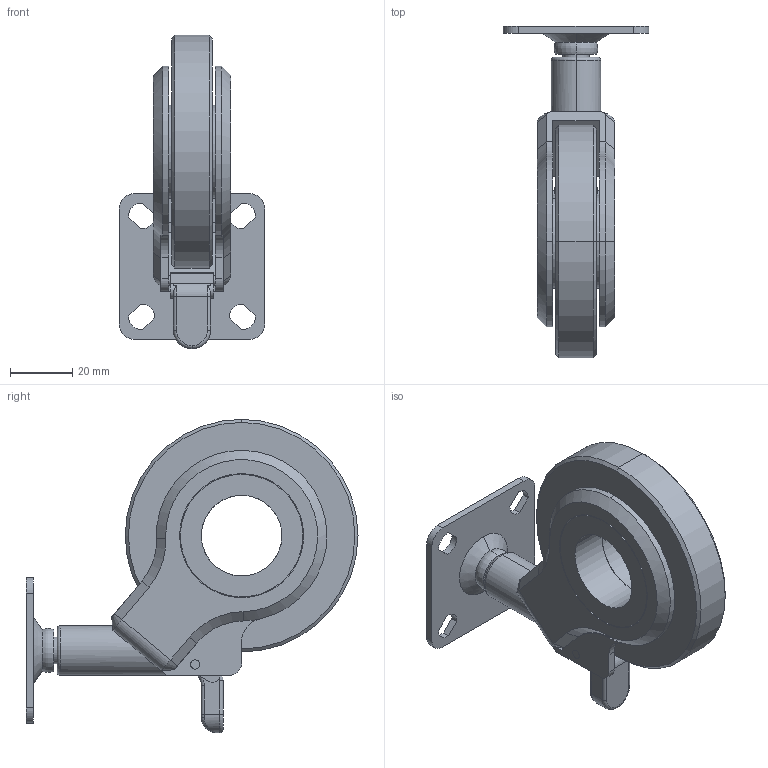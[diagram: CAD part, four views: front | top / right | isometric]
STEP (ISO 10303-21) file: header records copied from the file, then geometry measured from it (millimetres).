
FILE_DESCRIPTION (( 'STEP AP214' ), '1' );
FILE_NAME ('OLYM-75S-P.STEP', '2020-03-31T11:53:08', ( '' ), ( '' ), 'SwSTEP 2.0', 'SolidWorks 2019', '' );
FILE_SCHEMA (( 'AUTOMOTIVE_DESIGN' ));
Length unit declared in the file: millimetre
Products named in the file (7): OLYM-60-P_partsA; OLYM-75-P_wheel; OLYM_stopper pin; OLYM_stopper; OLYM-75S-P; OLYM-75-P_jiku; OLYM-75S-P_partsB
Assembly tree (7 placements, depth 2):
  OLYM-75S-P
    OLYM-75S-P_partsB
    OLYM-75-P_wheel
    OLYM-75-P_jiku  x2
    OLYM-60-P_partsA
    OLYM_stopper
    OLYM_stopper pin
Bounding box: 47 x 107 x 101 mm (x, y, z)
Volume: 89522.5 mm3; surface area: 37970.1 mm2
Topology: 7 solids, 7 shells, 173 faces, 420 edges, 264 vertices
Faces by surface type: cylinder 78, plane 64, cone 17, torus 12, bspline 2
Entity records: 5374 total; most frequent: CARTESIAN_POINT 1074, DIRECTION 912, ORIENTED_EDGE 800, EDGE_CURVE 400, AXIS2_PLACEMENT_3D 354, VERTEX_POINT 252, VECTOR 204, LINE 204
